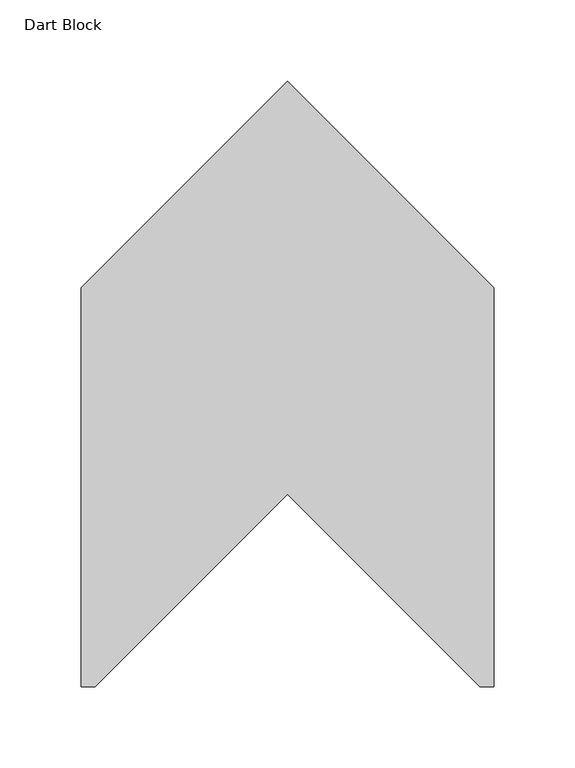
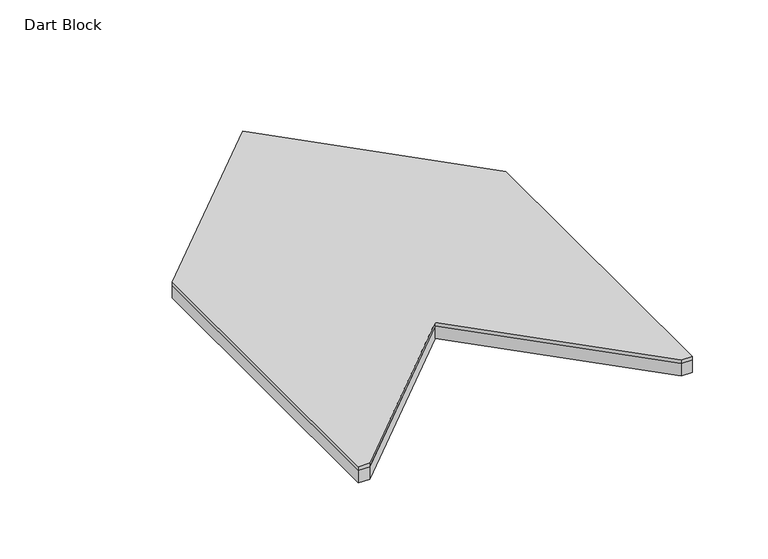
"""IFC4 building model written with IfcOpenShell, lengths in millimetres: proxy geometry, FilzFelt_Dart_Block : Dart Block."""

from ifc_helpers import new_model, si_unit, frame, origin, origin_with_axes, place, context, project, spatial, polyline, outline, extrude, source, transform, mapped, element, save


def dart_block_96afafd7(model_context):
    return source(origin(), model_context, "Body", "SweptSolid", [
        extrude(outline(polyline([(0.0, 190.5), (127.0, 63.5), (127.0, -182.0423284), (118.5423284, -182.0423284), (0.0, -63.5), (-118.5423284, -182.0423284), (-127.0, -182.0423284), (-127.0, 63.5), (0.0, 190.5)])), frame((0.0, 0.0, 10.0210937), z_axis=(0.0, 0.0, 1.0), x_axis=(1.0, 0.0, 0.0)), (0.0, 0.0, 1.0), 2.9765625),
        extrude(outline(polyline([(-127.0, 63.5), (0.0, 190.5), (127.0, 63.5), (127.0, -182.0423284), (118.5423284, -182.0423284), (0.0, -63.5), (-118.5423284, -182.0423284), (-127.0, -182.0423284), (-127.0, 63.5)])), origin_with_axes(), (0.0, 0.0, 1.0), 10.0210938),
    ])


if __name__ == "__main__":
    model = new_model("IFC4")
    model_context = context("Model", 3, world=origin())
    ifc_project = project(units=[si_unit("LENGTHUNIT", "METRE", prefix="MILLI")], contexts=[model_context])
    site = spatial("IfcSite", under=ifc_project)
    building = spatial("IfcBuilding", under=site)
    placement = place(None, origin())
    dart_block_shape = dart_block_96afafd7(model_context)
    element("IfcBuildingElementProxy", 1, Name="FilzFelt_Dart_Block : Dart Block", ObjectType="FilzFelt_Dart_Block : Dart Block", at=placement, inside=building, context=model_context, shape_type="MappedRepresentation", body=[
        mapped(dart_block_shape, transform((0.0, 0.0, 0.0), x_axis=(1.0, 0.0, 0.0), y_axis=(0.0, 1.0, 0.0), z_axis=(0.0, 0.0, 1.0))),
    ])
    save(model, "model.ifc")
